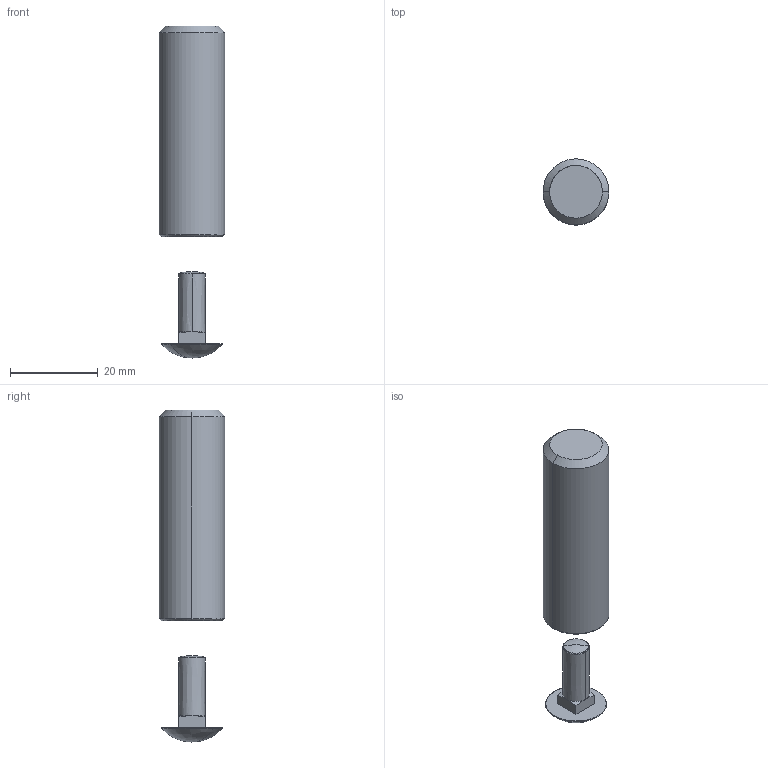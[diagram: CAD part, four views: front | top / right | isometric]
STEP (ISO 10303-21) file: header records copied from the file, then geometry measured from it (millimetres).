
FILE_DESCRIPTION(/* description */ (''),/* implementation_level */ '2;1');
FILE_NAME(/* name */ 'KOM050',/* time_stamp */ '2012-11-29T22:55:40+01:00',/* author */ (''),/* organization */ (''),/* preprocessor_version */ 'ST-DEVELOPER v10',/* originating_system */ '',/* authorisation */ '');
FILE_SCHEMA (('AUTOMOTIVE_DESIGN_CC2'));
Length unit declared in the file: millimetre
Products named in the file (1): 1
Bounding box: 15 x 14.98 x 75.63 mm (x, y, z)
Surface area: 3553.9 mm2 (no closed solid volume)
Topology: 0 solids, 24 shells, 35 faces, 123 edges, 101 vertices
Faces by surface type: bspline 26, plane 9
Entity records: 3621 total; most frequent: CARTESIAN_POINT 2740, ORIENTED_EDGE 137, EDGE_CURVE 115, VERTEX_POINT 95, B_SPLINE_CURVE_WITH_KNOTS 94, EDGE_LOOP 38, ADVANCED_FACE 35, FACE_OUTER_BOUND 35
